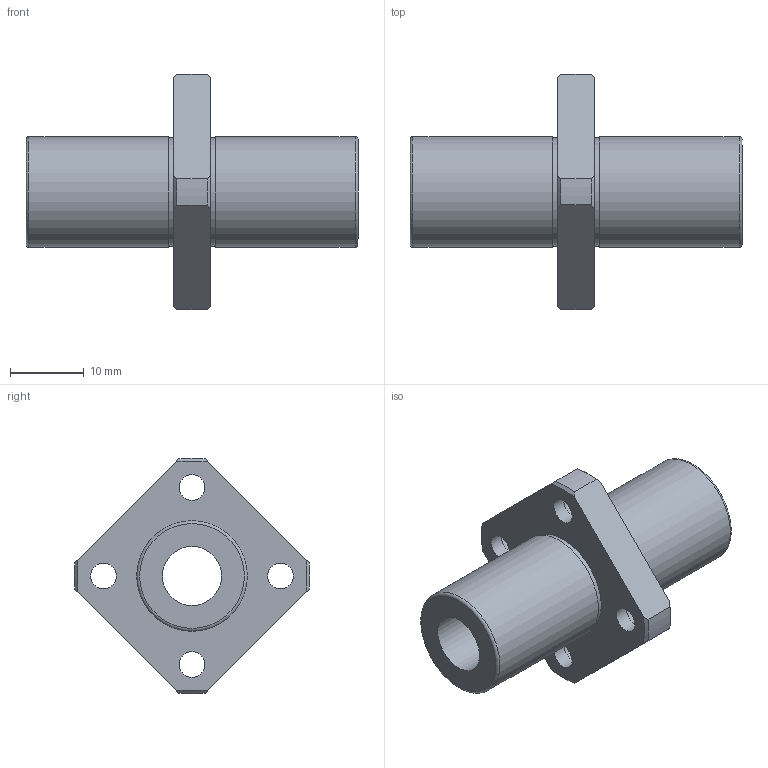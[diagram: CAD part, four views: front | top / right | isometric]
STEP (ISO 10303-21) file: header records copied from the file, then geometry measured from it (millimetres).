
FILE_DESCRIPTION(('STEP AP203'),'1');
FILE_NAME('//192.168.1.1/share/s-4 技術開発/s-4-4_CAD/s-4-4-3_見直し済み/002 修正済み/NFCS-VL/NFCS-VL_TOP/NFCS-8VLUU.step','2022-03-08T04:37:36',(' '),(' '),'Spatial InterOp 3D',' ',' ');
FILE_SCHEMA(('CONFIG_CONTROL_DESIGN'));
Length unit declared in the file: millimetre
Products named in the file (1): 1
Bounding box: 45 x 31.98 x 31.98 mm (x, y, z)
Volume: 7434 mm3; surface area: 4855.3 mm2
Topology: 1 solids, 1 shells, 41 faces, 98 edges, 67 vertices
Faces by surface type: cylinder 17, plane 14, cone 8, torus 2
Full cylindrical faces by diameter (mm): 3.5 x4, 6 x4, 8 x1, 14.7 x2, 15 x2
Entity records: 1158 total; most frequent: CARTESIAN_POINT 226, DIRECTION 188, ORIENTED_EDGE 152, AXIS2_PLACEMENT_3D 86, EDGE_CURVE 76, EDGE_LOOP 74, VERTEX_POINT 60, FACE_OUTER_BOUND 56
